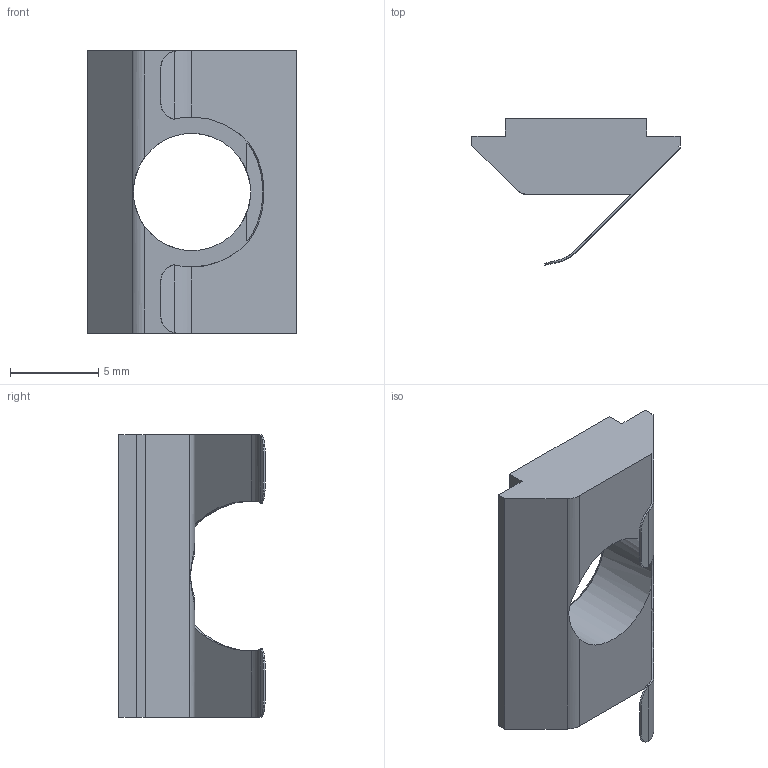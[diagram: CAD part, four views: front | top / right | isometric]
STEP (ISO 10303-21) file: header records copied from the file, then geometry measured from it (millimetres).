
FILE_DESCRIPTION((''),'2;1');
FILE_NAME('E:\catalogue and flyer\Profile catalogue 2015\Accessories JE info\Accessories-JE step file 31MAr16\JE-SN8-8_3030.stp','2016-03-31T16:44:59',('h029'),(''),'Autodesk Inventor 11','Autodesk Inventor 11','');
FILE_SCHEMA(('AUTOMOTIVE_DESIGN { 1 0 10303 214 1 1 1 1 }'));
Length unit declared in the file: millimetre
Products named in the file (1): JE-SN8-8_3030
Bounding box: 11.8 x 8.3 x 16 mm (x, y, z)
Volume: 486 mm3; surface area: 665 mm2
Topology: 1 solids, 1 shells, 42 faces, 112 edges, 71 vertices
Faces by surface type: plane 28, cylinder 10, bspline 3, cone 1
Entity records: 1350 total; most frequent: CARTESIAN_POINT 297, ORIENTED_EDGE 218, DIRECTION 209, EDGE_CURVE 109, VECTOR 71, LINE 71, VERTEX_POINT 70, AXIS2_PLACEMENT_3D 69
